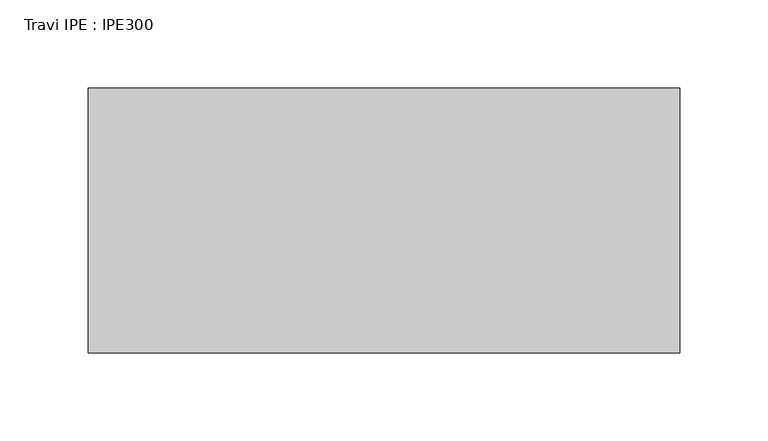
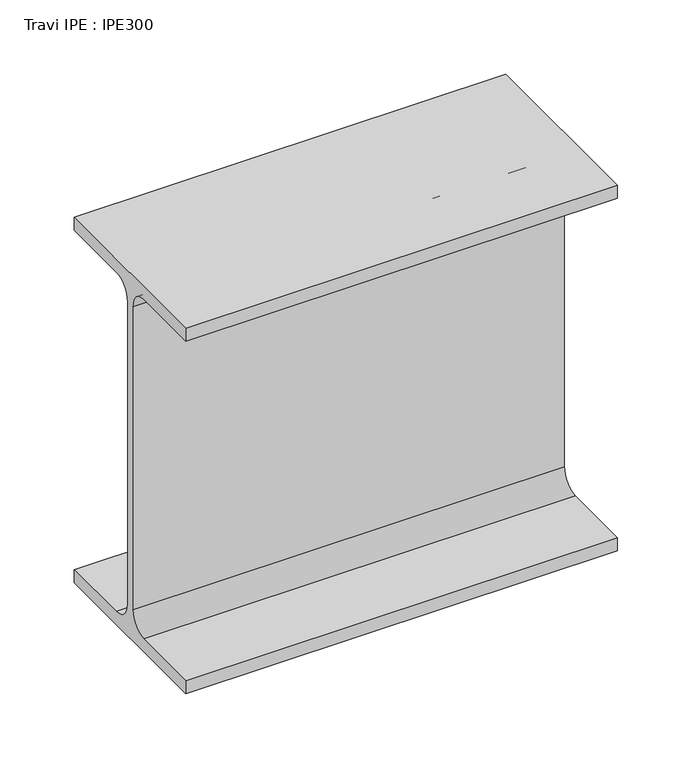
"""IFC4 building model written with IfcOpenShell, lengths in millimetres: beam geometry, Travi IPE : IPE300."""

import ifcopenshell
import ifcopenshell.guid

model = None  # the IFC model being written
_history = None  # IfcOwnerHistory: only IFC2X3 demands one
_inside = {}  # id of a spatial element -> (the spatial element, [elements in it])
_under = {}  # id of a project, library or spatial element -> (it, [spatial elements below it])
_declared = {}  # id of a project -> (the project, [libraries it declares])
_typed = {}  # id of a type object -> (the type object, [elements of that type])
_made_of = {}  # id of a material, layer set ... -> (it, [elements and type objects made of it])


def new_model(schema):
    """Start an empty IFC model of exactly this schema.

    Asked for "IFC4X3", IfcOpenShell would pick the latest addendum, in which some entities
    have other attributes; the version numbers below select the first issue.
    IFC2X3 requires an IfcOwnerHistory on every rooted entity: one is made here for all.
    """
    global model, _history
    if schema == "IFC4X3":
        model = ifcopenshell.file(schema_version=(4, 3, 0, 0))
    else:
        model = ifcopenshell.file(schema=schema)
    _inside.clear()
    _under.clear()
    _declared.clear()
    _typed.clear()
    _made_of.clear()
    _history = None
    if model.schema == "IFC2X3":
        org = make("IfcOrganization", Name="unknown")
        user = make(
            "IfcPersonAndOrganization",
            ThePerson=make("IfcPerson", FamilyName="unknown"),
            TheOrganization=org,
        )
        app = make(
            "IfcApplication",
            ApplicationDeveloper=org,
            Version="unknown",
            ApplicationFullName="unknown",
            ApplicationIdentifier="unknown",
        )
        _history = make(
            "IfcOwnerHistory",
            OwningUser=user,
            OwningApplication=app,
            ChangeAction="ADDED",
            CreationDate=0,
        )
    return model


def make(cls, **values):
    """One entity of the class cls with the attributes given. An attribute that is None is left unset."""
    return model.create_entity(
        cls, **{name: value for name, value in values.items() if value is not None}
    )


def rooted(cls, **values):
    """An entity with a GlobalId (a new one), such as an element, a storey or a relation."""
    return make(cls, GlobalId=ifcopenshell.guid.new(), OwnerHistory=_history, **values)


def si_unit(unit_type, name, prefix=None):
    """IfcSIUnit, for example si_unit("LENGTHUNIT", "METRE", prefix="MILLI")."""
    return make("IfcSIUnit", UnitType=unit_type, Prefix=prefix, Name=name)


def assignment(units):
    """IfcUnitAssignment: the units of a project."""
    return None if units is None else make("IfcUnitAssignment", Units=units)


def point(xyz):
    """IfcCartesianPoint."""
    return None if xyz is None else make("IfcCartesianPoint", Coordinates=xyz)


def direction(xyz):
    """IfcDirection."""
    return None if xyz is None else make("IfcDirection", DirectionRatios=xyz)


def frame(location, z_axis=None, x_axis=None):
    """IfcAxis2Placement3D, a coordinate frame: its origin and axes. An axis left out is left unset."""
    return make(
        "IfcAxis2Placement3D",
        Location=point(location),
        Axis=direction(z_axis),
        RefDirection=direction(x_axis),
    )


def frame_2d(location, x_axis=None):
    """IfcAxis2Placement2D, a coordinate frame in the plane: its origin and x axis."""
    return make(
        "IfcAxis2Placement2D", Location=point(location), RefDirection=direction(x_axis)
    )


def origin():
    """The frame at (0, 0, 0) with its axes left unset."""
    return frame((0.0, 0.0, 0.0))


def place(relative_to, where):
    """IfcLocalPlacement: puts the frame where relative to a parent placement (None: the world)."""
    return make(
        "IfcLocalPlacement", PlacementRelTo=relative_to, RelativePlacement=where
    )


def context(
    kind, dimensions, precision=None, world=None, true_north=None, identifier=None
):
    """IfcGeometricRepresentationContext, for example the 3D "Model" context."""
    return make(
        "IfcGeometricRepresentationContext",
        ContextIdentifier=identifier,
        ContextType=kind,
        CoordinateSpaceDimension=dimensions,
        Precision=precision,
        WorldCoordinateSystem=world,
        TrueNorth=true_north,
    )


def project(units=None, contexts=None):
    """IfcProject with its units and contexts."""
    return rooted(
        "IfcProject",
        Name="project",
        RepresentationContexts=contexts,
        UnitsInContext=assignment(units),
    )


def spatial(cls, under=None, at=None, **own):
    """A site, building, storey or space (cls), placed at a placement, below another one or the project."""
    s = rooted(cls, ObjectPlacement=at, **own)
    if under is not None:
        _under.setdefault(under.id(), (under, []))[1].append(s)
    return s


def polyline(points):
    """IfcPolyline through the points."""
    return make("IfcPolyline", Points=[point(p) for p in points])


def circle_curve(where, radius):
    """IfcCircle in the frame where."""
    return make("IfcCircle", Position=where, Radius=radius)


def trimmed(basis, trim1, trim2, sense, master):
    """IfcTrimmedCurve: the piece of a basis curve between two trims."""
    return make(
        "IfcTrimmedCurve",
        BasisCurve=basis,
        Trim1=trim1,
        Trim2=trim2,
        SenseAgreement=sense,
        MasterRepresentation=master,
    )


def segment(curve, same_sense, transition):
    """IfcCompositeCurveSegment."""
    return make(
        "IfcCompositeCurveSegment",
        Transition=transition,
        SameSense=same_sense,
        ParentCurve=curve,
    )


def composite_curve(segments, self_intersect=None):
    """IfcCompositeCurve: segments joined end to end."""
    return make("IfcCompositeCurve", Segments=segments, SelfIntersect=self_intersect)


def outline(outer, holes=None, kind="AREA"):
    """IfcArbitraryClosedProfileDef: a profile drawn as a closed curve; with holes, ...WithVoids."""
    if holes is None:
        return make("IfcArbitraryClosedProfileDef", ProfileType=kind, OuterCurve=outer)
    return make(
        "IfcArbitraryProfileDefWithVoids",
        ProfileType=kind,
        OuterCurve=outer,
        InnerCurves=holes,
    )


def extrude(swept, where, along, depth):
    """IfcExtrudedAreaSolid: the profile swept, set in the frame where, extruded along a direction by depth."""
    return make(
        "IfcExtrudedAreaSolid",
        SweptArea=swept,
        Position=where,
        ExtrudedDirection=direction(along),
        Depth=depth,
    )


def shape(context_of_items, identifier, shape_type, items):
    """IfcShapeRepresentation: the items that make up one representation, for example the "Body"."""
    return make(
        "IfcShapeRepresentation",
        ContextOfItems=context_of_items,
        RepresentationIdentifier=identifier,
        RepresentationType=shape_type,
        Items=items,
    )


def source(mapping_origin, context_of_items, identifier, shape_type, items):
    """IfcRepresentationMap: a shape defined once, which mapped items show again and again."""
    return make(
        "IfcRepresentationMap",
        MappingOrigin=mapping_origin,
        MappedRepresentation=shape(context_of_items, identifier, shape_type, items),
    )


def transform(
    local_origin,
    x_axis=None,
    y_axis=None,
    z_axis=None,
    scale=None,
    scale2=None,
    scale3=None,
    uniform=True,
):
    """IfcCartesianTransformationOperator3D, or its non-uniform kind. x_axis, y_axis, z_axis: its Axis1, 2, 3."""
    if uniform:
        return make(
            "IfcCartesianTransformationOperator3D",
            Axis1=direction(x_axis),
            Axis2=direction(y_axis),
            LocalOrigin=point(local_origin),
            Scale=scale,
            Axis3=direction(z_axis),
        )
    return make(
        "IfcCartesianTransformationOperator3DnonUniform",
        Axis1=direction(x_axis),
        Axis2=direction(y_axis),
        LocalOrigin=point(local_origin),
        Scale=scale,
        Axis3=direction(z_axis),
        Scale2=scale2,
        Scale3=scale3,
    )


def mapped(mapping_source, mapping_target):
    """IfcMappedItem: shows the shape of a source again, moved by a transform."""
    return make(
        "IfcMappedItem", MappingSource=mapping_source, MappingTarget=mapping_target
    )


def made_of(thing, what):
    """Note that an element or type object is made of a material, layer set ...; save() writes the relation."""
    if what is not None:
        _made_of.setdefault(what.id(), (what, []))[1].append(thing)
    return thing


def element(
    cls,
    number,
    at=None,
    inside=None,
    cuts=None,
    type_object=None,
    material=None,
    context=None,
    identifier="Body",
    shape_type=None,
    held_by="IfcProductDefinitionShape",
    body=None,
    shapes=None,
    **own,
):
    """One element of the class cls, such as IfcWall. Its Tag is "e" and its number.

    at: its placement. inside: the storey or other place that contains it. cuts: it is an
    opening in that element (IfcRelVoidsElement). A single representation is given by context,
    identifier, shape_type and body (its items); several are given by shapes. held_by: the class
    of the entity that holds the representations. save() writes the other relations.
    """
    e = rooted(cls, Tag="e%d" % number, ObjectPlacement=at, **own)
    if body is not None:
        shapes = [shape(context, identifier, shape_type, body)]
    if shapes is not None:
        e.Representation = make(held_by, Representations=shapes)
    if inside is not None:
        _inside.setdefault(inside.id(), (inside, []))[1].append(e)
    if cuts is not None:
        rooted(
            "IfcRelVoidsElement", RelatingBuildingElement=cuts, RelatedOpeningElement=e
        )
    if type_object is not None:
        _typed.setdefault(type_object.id(), (type_object, []))[1].append(e)
    return made_of(e, material)


def aggregate(whole, parts):
    """IfcRelAggregates: a whole, such as a stair, and the parts it consists of."""
    return rooted("IfcRelAggregates", RelatingObject=whole, RelatedObjects=parts)


def save(model, path):
    """Write the relations noted so far, then the file.

    IfcRelAggregates (storeys below a building ...), IfcRelContainedInSpatialStructure (elements
    in a storey), IfcRelDefinesByType, IfcRelAssociatesMaterial and IfcRelDeclares: one each for
    every whole, place, type object, material and project.
    """
    for whole, parts in _under.values():
        aggregate(whole, parts)
    for where, things in _inside.values():
        rooted(
            "IfcRelContainedInSpatialStructure",
            RelatedElements=things,
            RelatingStructure=where,
        )
    for kind, things in _typed.values():
        rooted("IfcRelDefinesByType", RelatedObjects=things, RelatingType=kind)
    for what, things in _made_of.values():
        rooted("IfcRelAssociatesMaterial", RelatedObjects=things, RelatingMaterial=what)
    for by, libraries in _declared.values():
        rooted("IfcRelDeclares", RelatingContext=by, RelatedDefinitions=libraries)
    model.write(path)


def travi_ipe_ipe300_ce4784e4(model_context):
    return source(origin(), model_context, "Body", "SweptSolid", [
        extrude(outline(composite_curve([segment(polyline([(75.0, -139.3), (75.0, -150.0), (-75.0, -150.0), (-75.0, -139.3), (-18.55, -139.3)]), True, "CONTINUOUS"), segment(trimmed(circle_curve(frame_2d((-18.55, -124.3)), 15.0), [point((-18.55, -139.3))], [point((-3.55, -124.3))], True, "CARTESIAN"), True, "CONTINUOUS"), segment(polyline([(-3.55, -124.3), (-3.55, 124.3)]), True, "CONTINUOUS"), segment(trimmed(circle_curve(frame_2d((-18.55, 124.3)), 15.0), [point((-3.55, 124.3))], [point((-18.55, 139.3))], True, "CARTESIAN"), True, "CONTINUOUS"), segment(polyline([(-18.55, 139.3), (-75.0, 139.3), (-75.0, 150.0), (75.0, 150.0), (75.0, 139.3), (18.55, 139.3)]), True, "CONTINUOUS"), segment(trimmed(circle_curve(frame_2d((18.55, 124.3)), 15.0), [point((18.55, 139.3))], [point((3.55, 124.3))], True, "CARTESIAN"), True, "CONTINUOUS"), segment(polyline([(3.55, 124.3), (3.55, -124.3)]), True, "CONTINUOUS"), segment(trimmed(circle_curve(frame_2d((18.55, -124.3)), 15.0), [point((3.55, -124.3))], [point((18.55, -139.3))], True, "CARTESIAN"), True, "CONTINUOUS"), segment(polyline([(18.55, -139.3), (75.0, -139.3)]), True, "CONTINUOUS")], self_intersect=False)), frame((-210.5, 0.0, 0.0), z_axis=(1.0, 0.0, 0.0), x_axis=(0.0, 1.0, 0.0)), (0.0, 0.0, 1.0), 335.0),
    ])


if __name__ == "__main__":
    model = new_model("IFC4")
    model_context = context("Model", 3, world=origin())
    ifc_project = project(units=[si_unit("LENGTHUNIT", "METRE", prefix="MILLI")], contexts=[model_context])
    site = spatial("IfcSite", under=ifc_project)
    building = spatial("IfcBuilding", under=site)
    placement = place(None, origin())
    travi_ipe_ipe300_shape = travi_ipe_ipe300_ce4784e4(model_context)
    element("IfcBeam", 1, ObjectType="Travi IPE : IPE300", at=placement, inside=building, context=model_context, shape_type="MappedRepresentation", body=[
        mapped(travi_ipe_ipe300_shape, transform((0.0, 0.0, 0.0), x_axis=(1.0, 0.0, 0.0), y_axis=(0.0, 1.0, 0.0), z_axis=(0.0, 0.0, 1.0))),
    ])
    save(model, "model.ifc")
